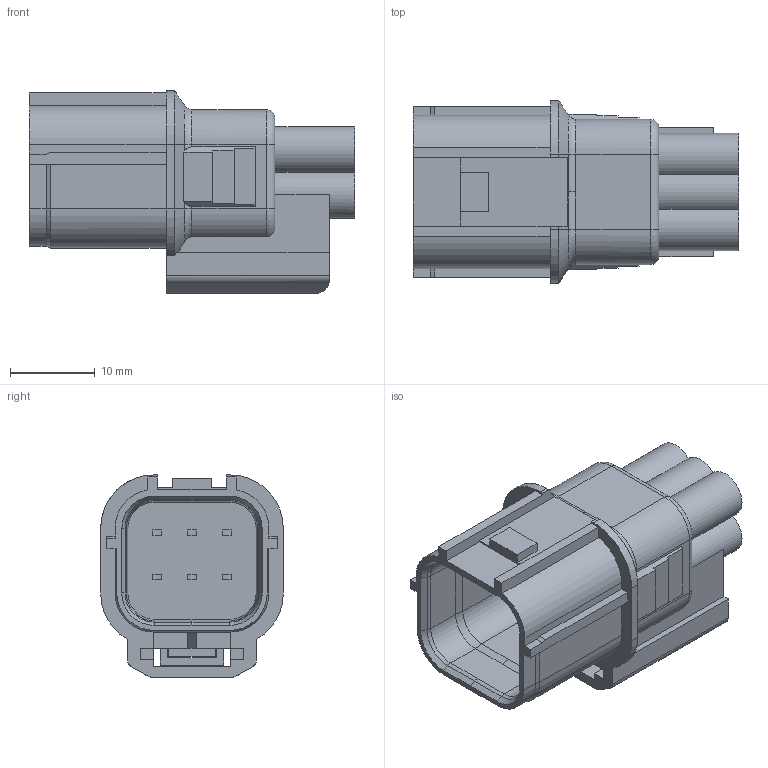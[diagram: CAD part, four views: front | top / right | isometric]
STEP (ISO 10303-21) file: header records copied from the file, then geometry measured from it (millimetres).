
FILE_DESCRIPTION(('CATIA V5 STEP Exchange','CAx-IF Rec.Pracs.--- Model Styling and Organization---1.2---2011-12-15'),'2;1');
FILE_NAME('C:\Users\0100900093\Desktop\20150612_HV_HVG_簡易モデル\6188-4908.stp','2015-07-10T05:04:53+00:00',('none'),('none'),'CATIA Version 5-6 Release 2012 SP4 HF74','CATIA V5 STEP AP214','none');
FILE_SCHEMA(('AUTOMOTIVE_DESIGN { 1 0 10303 214 1 1 1 1 }'));
Length unit declared in the file: millimetre
Products named in the file (1): 6188-4908
Bounding box: 38.3 x 21.5 x 23.8 mm (x, y, z)
Volume: 7094.2 mm3; surface area: 5440.5 mm2
Topology: 1 solids, 1 shells, 286 faces, 786 edges, 513 vertices
Faces by surface type: plane 169, cylinder 58, bspline 38, cone 17, torus 4
Entity records: 10344 total; most frequent: CARTESIAN_POINT 3652, ORIENTED_EDGE 1572, DIRECTION 1040, EDGE_CURVE 786, VECTOR 532, LINE 532, VERTEX_POINT 513, AXIS2_PLACEMENT_3D 311
